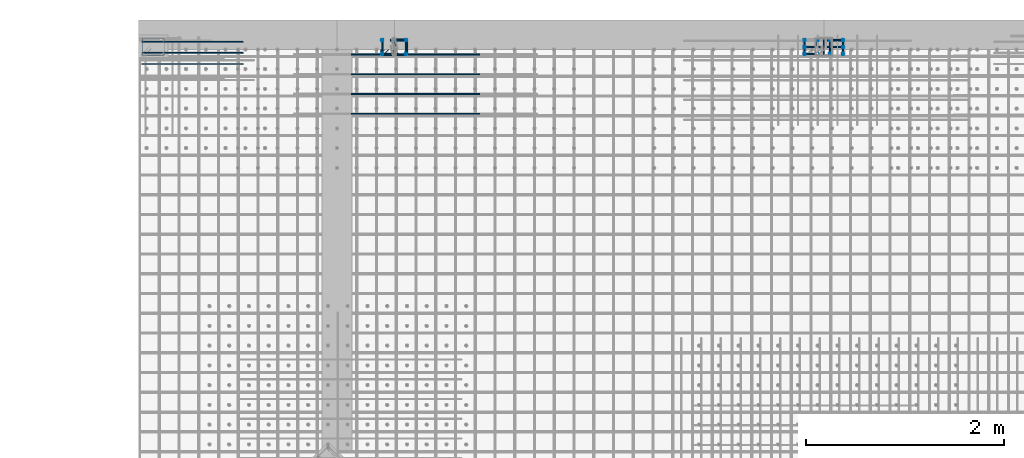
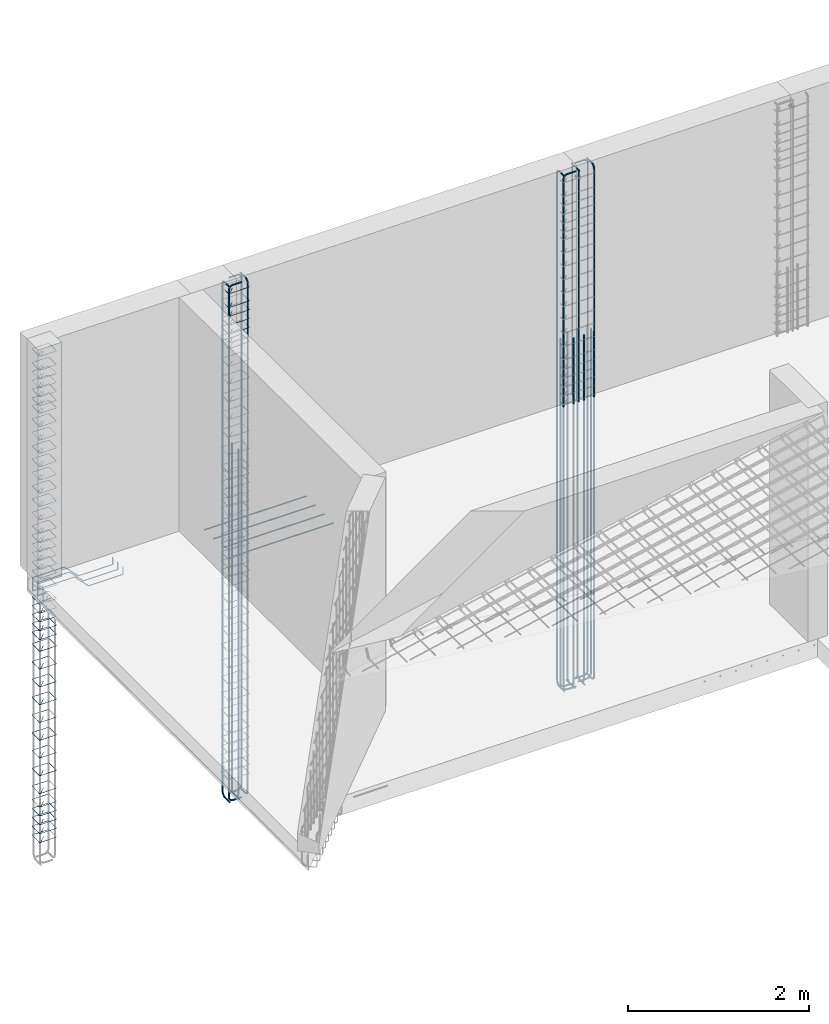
# One storey, part 12 of 17: 11 reinforcing bars.
"""IFC4 building model written with IfcOpenShell, lengths in metres."""

from ifc_helpers import new_model, entity, si_unit, frame, origin_with_axes, place, context, project, spatial, source, transform, mapped, element, save


model = new_model("IFC4")

# Units and contexts
model_context = context("Model", 3, precision=1e-05, world=origin_with_axes())
ifc_project = project(units=[si_unit("LENGTHUNIT", "METRE"), si_unit("AREAUNIT", "SQUARE_METRE"), si_unit("VOLUMEUNIT", "CUBIC_METRE"), si_unit("MASSUNIT", "GRAM", prefix="KILO"), si_unit("TIMEUNIT", "SECOND"), si_unit("PLANEANGLEUNIT", "RADIAN"), si_unit("SOLIDANGLEUNIT", "STERADIAN"), si_unit("THERMODYNAMICTEMPERATUREUNIT", "DEGREE_CELSIUS")], contexts=[model_context])

# Site, building, storey
placement_1 = place(None, origin_with_axes())
site = spatial("IfcSite", under=ifc_project, at=placement_1, Name="Italia", CompositionType="ELEMENT")
building = spatial("IfcBuilding", under=site, at=placement_1, Name="Abitazione", CompositionType="ELEMENT")
storey_placement = place(None, frame((0.0, 0.0, 3.569999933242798), z_axis=(0.0, 0.0, 1.0), x_axis=(1.0, 0.0, 0.0)))
storey = spatial("IfcBuildingStorey", under=building, at=storey_placement, Name="Storey 1", CompositionType="ELEMENT", Elevation=3.569999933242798)

# Reinforcing bars
shared_shape_1 = source(origin_with_axes(), model_context, "Body", "AdvancedSweptSolid", [
    entity("IfcSweptDiskSolid", entity("IfcIndexedPolyCurve", entity("IfcCartesianPointList3D", [[1.32121, 11.2817, 0.041], [1.25343, 11.2139, 0.0402633], [1.24636, 11.211, 0.0402045], [1.241, 11.211, 0.0401633], [1.23717, 11.2118, 0.0401334], [1.23393, 11.2139, 0.0401034], [1.23176, 11.2172, 0.0400734], [1.231, 11.221, 0.0400434], [1.231, 11.369, 0.038906], [1.23176, 11.3728, 0.0388761], [1.23393, 11.3761, 0.0388461], [1.23717, 11.3782, 0.0388161], [1.241, 11.379, 0.0387861], [1.439, 11.379, 0.0372645], [1.44283, 11.3782, 0.0372345], [1.44607, 11.3761, 0.0372045], [1.44824, 11.3728, 0.0371745], [1.449, 11.369, 0.0371445], [1.449, 11.221, 0.0360072], [1.44824, 11.2172, 0.0359772], [1.44607, 11.2139, 0.0359472], [1.44283, 11.2118, 0.0359172], [1.439, 11.211, 0.0358872], [1.241, 11.211, 0.0343656], [1.23717, 11.2118, 0.0343356], [1.23393, 11.2139, 0.0343057], [1.23176, 11.2172, 0.0342757], [1.231, 11.221, 0.0342457], [1.231, 11.2264, 0.0342045], [1.23393, 11.2334, 0.0341457], [1.30171, 11.3012, 0.033409]]), [entity("IfcLineIndex", [1, 2]), entity("IfcLineIndex", [2, 3]), entity("IfcLineIndex", [3, 4]), entity("IfcLineIndex", [4, 5]), entity("IfcLineIndex", [5, 6]), entity("IfcLineIndex", [6, 7]), entity("IfcLineIndex", [7, 8]), entity("IfcLineIndex", [8, 9]), entity("IfcLineIndex", [9, 10]), entity("IfcLineIndex", [10, 11]), entity("IfcLineIndex", [11, 12]), entity("IfcLineIndex", [12, 13]), entity("IfcLineIndex", [13, 14]), entity("IfcLineIndex", [14, 15]), entity("IfcLineIndex", [15, 16]), entity("IfcLineIndex", [16, 17]), entity("IfcLineIndex", [17, 18]), entity("IfcLineIndex", [18, 19]), entity("IfcLineIndex", [19, 20]), entity("IfcLineIndex", [20, 21]), entity("IfcLineIndex", [21, 22]), entity("IfcLineIndex", [22, 23]), entity("IfcLineIndex", [23, 24]), entity("IfcLineIndex", [24, 25]), entity("IfcLineIndex", [25, 26]), entity("IfcLineIndex", [26, 27]), entity("IfcLineIndex", [27, 28]), entity("IfcLineIndex", [28, 29]), entity("IfcLineIndex", [29, 30]), entity("IfcLineIndex", [30, 31])], False), 0.003),
])
placement_2 = place(placement_1, origin_with_axes())
reinforcing_bar_1_placement = place(placement_2, origin_with_axes())
element("IfcReinforcingBar", 1, at=reinforcing_bar_1_placement, inside=storey, BarLength=0.987804, CrossSectionArea=2.8274e-05, NominalDiameter=0.006, context=model_context, shape_type="MappedRepresentation", body=[
    mapped(shared_shape_1, transform((0.0, 0.0, 6.56786), x_axis=(1.0, 0.0, 7.91257e-05), y_axis=(0.0, 1.0, -8.54465e-05), z_axis=(-7.91256e-05, 8.54466e-05, 1.0), scale=1.0)),
    mapped(shared_shape_1, transform((0.0, 0.0, 4.35786), x_axis=(1.0, 0.0, 7.91257e-05), y_axis=(0.0, 1.0, -8.54465e-05), z_axis=(-7.91256e-05, 8.54466e-05, 1.0), scale=1.0)),
    mapped(shared_shape_1, transform((0.0, 0.0, 4.53786), x_axis=(1.0, 0.0, 7.91257e-05), y_axis=(0.0, 1.0, -8.54465e-05), z_axis=(-7.91256e-05, 8.54466e-05, 1.0), scale=1.0)),
    mapped(shared_shape_1, transform((0.0, 0.0, 4.71786), x_axis=(1.0, 0.0, 7.91257e-05), y_axis=(0.0, 1.0, -8.54465e-05), z_axis=(-7.91256e-05, 8.54466e-05, 1.0), scale=1.0)),
    mapped(shared_shape_1, transform((0.0, 0.0, 4.89786), x_axis=(1.0, 0.0, 7.91257e-05), y_axis=(0.0, 1.0, -8.54465e-05), z_axis=(-7.91256e-05, 8.54466e-05, 1.0), scale=1.0)),
    mapped(shared_shape_1, transform((0.0, 0.0, 4.17786), x_axis=(1.0, 0.0, 7.91257e-05), y_axis=(0.0, 1.0, -8.54465e-05), z_axis=(-7.91256e-05, 8.54466e-05, 1.0), scale=1.0)),
    mapped(shared_shape_1, transform((0.0, 0.0, 3.69016), x_axis=(1.0, 0.0, 1.66127e-05), y_axis=(0.0, 1.0, -1.59008e-05), z_axis=(-1.66127e-05, 1.59008e-05, 1.0), scale=1.0)),
    mapped(shared_shape_1, transform((0.0, 0.0, 3.81016), x_axis=(1.0, 0.0, 1.66127e-05), y_axis=(0.0, 1.0, -1.59008e-05), z_axis=(-1.66127e-05, 1.59008e-05, 1.0), scale=1.0)),
    mapped(shared_shape_1, transform((0.0, 0.0, 3.93016), x_axis=(1.0, 0.0, 1.66127e-05), y_axis=(0.0, 1.0, -1.59008e-05), z_axis=(-1.66127e-05, 1.59008e-05, 1.0), scale=1.0)),
    mapped(shared_shape_1, transform((0.0, 0.0, 4.05086), x_axis=(1.0, 0.0, 7.91257e-05), y_axis=(0.0, 1.0, -8.54465e-05), z_axis=(-7.91256e-05, 8.54466e-05, 1.0), scale=1.0)),
    mapped(shared_shape_1, transform((0.0, 0.0, 5.07786), x_axis=(1.0, 0.0, 7.91257e-05), y_axis=(0.0, 1.0, -8.54465e-05), z_axis=(-7.91256e-05, 8.54466e-05, 1.0), scale=1.0)),
    mapped(shared_shape_1, transform((0.0, 0.0, 6.02086), x_axis=(1.0, 0.0, 7.91257e-05), y_axis=(0.0, 1.0, -8.54465e-05), z_axis=(-7.91256e-05, 8.54466e-05, 1.0), scale=1.0)),
    mapped(shared_shape_1, transform((0.0, 0.0, 6.14086), x_axis=(1.0, 0.0, 7.91257e-05), y_axis=(0.0, 1.0, -8.54465e-05), z_axis=(-7.91256e-05, 8.54466e-05, 1.0), scale=1.0)),
    mapped(shared_shape_1, transform((0.0, 0.0, 6.26086), x_axis=(1.0, 0.0, 7.91257e-05), y_axis=(0.0, 1.0, -8.54465e-05), z_axis=(-7.91256e-05, 8.54466e-05, 1.0), scale=1.0)),
    mapped(shared_shape_1, transform((0.0, 0.0, 6.38086), x_axis=(1.0, 0.0, 7.91257e-05), y_axis=(0.0, 1.0, -8.54465e-05), z_axis=(-7.91256e-05, 8.54466e-05, 1.0), scale=1.0)),
    mapped(shared_shape_1, transform((0.0, 0.0, 5.90086), x_axis=(1.0, 0.0, 7.91257e-05), y_axis=(0.0, 1.0, -8.54465e-05), z_axis=(-7.91256e-05, 8.54466e-05, 1.0), scale=1.0)),
    mapped(shared_shape_1, transform((0.0, 0.0, 5.25786), x_axis=(1.0, 0.0, 7.91257e-05), y_axis=(0.0, 1.0, -8.54465e-05), z_axis=(-7.91256e-05, 8.54466e-05, 1.0), scale=1.0)),
    mapped(shared_shape_1, transform((0.0, 0.0, 5.43786), x_axis=(1.0, 0.0, 7.91257e-05), y_axis=(0.0, 1.0, -8.54465e-05), z_axis=(-7.91256e-05, 8.54466e-05, 1.0), scale=1.0)),
    mapped(shared_shape_1, transform((0.0, 0.0, 5.61786), x_axis=(1.0, 0.0, 7.91257e-05), y_axis=(0.0, 1.0, -8.54465e-05), z_axis=(-7.91256e-05, 8.54466e-05, 1.0), scale=1.0)),
    mapped(shared_shape_1, transform((0.0, 0.0, 5.79786), x_axis=(1.0, 0.0, 7.91257e-05), y_axis=(0.0, 1.0, -8.54465e-05), z_axis=(-7.91256e-05, 8.54466e-05, 1.0), scale=1.0)),
    mapped(shared_shape_1, transform((0.0, 0.0, 3.57016), x_axis=(1.0, 0.0, 1.66127e-05), y_axis=(0.0, 1.0, -1.59008e-05), z_axis=(-1.66127e-05, 1.59008e-05, 1.0), scale=1.0)),
    mapped(shared_shape_1, transform((0.0, 0.0, 2.86016), x_axis=(1.0, 0.0, 1.66127e-05), y_axis=(0.0, 1.0, -1.59008e-05), z_axis=(-1.66127e-05, 1.59008e-05, 1.0), scale=1.0)),
    mapped(shared_shape_1, transform((0.0, 0.0, 0.120026), x_axis=(1.0, 0.0, 0.0), y_axis=(0.0, 1.0, 0.0), z_axis=(0.0, 0.0, 1.0), scale=1.0)),
    mapped(shared_shape_1, transform((0.0, 0.0, 0.24003), x_axis=(1.0, 0.0, 0.0), y_axis=(0.0, 1.0, 0.0), z_axis=(0.0, 0.0, 1.0), scale=1.0)),
    mapped(shared_shape_1, transform((0.0, 0.0, 0.36003), x_axis=(1.0, 0.0, 0.0), y_axis=(0.0, 1.0, 0.0), z_axis=(0.0, 0.0, 1.0), scale=1.0)),
    mapped(shared_shape_1, transform((0.0, 0.0, 2.98016), x_axis=(1.0, 0.0, 1.66127e-05), y_axis=(0.0, 1.0, -1.59008e-05), z_axis=(-1.66127e-05, 1.59008e-05, 1.0), scale=1.0)),
    mapped(shared_shape_1, transform((0.0, 0.0, 0.0), x_axis=(1.0, 0.0, 0.0), y_axis=(0.0, 1.0, 0.0), z_axis=(0.0, 0.0, 1.0), scale=1.0)),
    mapped(shared_shape_1, transform((0.0, 0.0, 0.901871), x_axis=(1.0, 0.0, -1.21837e-05), y_axis=(0.0, 1.0, 1.28963e-05), z_axis=(1.21837e-05, -1.28963e-05, 1.0), scale=1.0)),
    mapped(shared_shape_1, transform((0.0, 0.0, 1.14187), x_axis=(1.0, 0.0, -1.21837e-05), y_axis=(0.0, 1.0, 1.28963e-05), z_axis=(1.21837e-05, -1.28963e-05, 1.0), scale=1.0)),
    mapped(shared_shape_1, transform((0.0, 0.0, 1.38187), x_axis=(1.0, 0.0, -1.21837e-05), y_axis=(0.0, 1.0, 1.28963e-05), z_axis=(1.21837e-05, -1.28963e-05, 1.0), scale=1.0)),
    mapped(shared_shape_1, transform((0.0, 0.0, 1.62187), x_axis=(1.0, 0.0, -1.21837e-05), y_axis=(0.0, 1.0, 1.28963e-05), z_axis=(1.21837e-05, -1.28963e-05, 1.0), scale=1.0)),
    mapped(shared_shape_1, transform((0.0, 0.0, 0.479871), x_axis=(1.0, 0.0, -1.21837e-05), y_axis=(0.0, 1.0, 1.28963e-05), z_axis=(1.21837e-05, -1.28963e-05, 1.0), scale=1.0)),
    mapped(shared_shape_1, transform((0.0, 0.0, 1.86187), x_axis=(1.0, 0.0, -1.21837e-05), y_axis=(0.0, 1.0, 1.28963e-05), z_axis=(1.21837e-05, -1.28963e-05, 1.0), scale=1.0)),
    mapped(shared_shape_1, transform((0.0, 0.0, 3.22016), x_axis=(1.0, 0.0, 1.66127e-05), y_axis=(0.0, 1.0, -1.59008e-05), z_axis=(-1.66127e-05, 1.59008e-05, 1.0), scale=1.0)),
    mapped(shared_shape_1, transform((0.0, 0.0, 3.10016), x_axis=(1.0, 0.0, 1.66127e-05), y_axis=(0.0, 1.0, -1.59008e-05), z_axis=(-1.66127e-05, 1.59008e-05, 1.0), scale=1.0)),
    mapped(shared_shape_1, transform((0.0, 0.0, 0.661871), x_axis=(1.0, 0.0, -1.21837e-05), y_axis=(0.0, 1.0, 1.28963e-05), z_axis=(1.21837e-05, -1.28963e-05, 1.0), scale=1.0)),
    mapped(shared_shape_1, transform((0.0, 0.0, 3.40716), x_axis=(1.0, 0.0, 1.66127e-05), y_axis=(0.0, 1.0, -1.59008e-05), z_axis=(-1.66127e-05, 1.59008e-05, 1.0), scale=1.0)),
    mapped(shared_shape_1, transform((0.0, 0.0, 2.34216), x_axis=(1.0, 0.0, 1.66127e-05), y_axis=(0.0, 1.0, -1.59008e-05), z_axis=(-1.66127e-05, 1.59008e-05, 1.0), scale=1.0)),
    mapped(shared_shape_1, transform((0.0, 0.0, 2.10216), x_axis=(1.0, 0.0, 1.66127e-05), y_axis=(0.0, 1.0, -1.59008e-05), z_axis=(-1.66127e-05, 1.59008e-05, 1.0), scale=1.0)),
    mapped(shared_shape_1, transform((0.0, 0.0, 2.74016), x_axis=(1.0, 0.0, 1.66127e-05), y_axis=(0.0, 1.0, -1.59008e-05), z_axis=(-1.66127e-05, 1.59008e-05, 1.0), scale=1.0)),
    mapped(shared_shape_1, transform((0.0, 0.0, 2.58216), x_axis=(1.0, 0.0, 1.66127e-05), y_axis=(0.0, 1.0, -1.59008e-05), z_axis=(-1.66127e-05, 1.59008e-05, 1.0), scale=1.0)),
])
shared_shape_2 = source(origin_with_axes(), model_context, "Body", "AdvancedSweptSolid", [
    entity("IfcSweptDiskSolid", entity("IfcIndexedPolyCurve", entity("IfcCartesianPointList3D", [[3.822, 11.225, -0.265], [3.715, 11.225, -0.265], [3.69395, 11.225, -0.260813], [3.67611, 11.225, -0.248891], [3.66419, 11.225, -0.231048], [3.66, 11.225, -0.21], [3.66, 11.225, 0.8975]]), [entity("IfcLineIndex", [1, 2]), entity("IfcLineIndex", [2, 3]), entity("IfcLineIndex", [3, 4]), entity("IfcLineIndex", [4, 5]), entity("IfcLineIndex", [5, 6]), entity("IfcLineIndex", [6, 7])], False), 0.011),
])
reinforcing_bar_2_placement = place(placement_2, origin_with_axes())
element("IfcReinforcingBar", 2, at=reinforcing_bar_2_placement, inside=storey, BarLength=1.30034, CrossSectionArea=0.00038013, NominalDiameter=0.022, context=model_context, shape_type="MappedRepresentation", body=[
    mapped(shared_shape_2, transform((7.56, 22.59, 0.0), x_axis=(-1.0, 0.0, 0.0), y_axis=(0.0, -1.0, 0.0), z_axis=(0.0, 0.0, 1.0), scale=1.0)),
    mapped(shared_shape_2, transform((-7.565, 15.025, 0.0), x_axis=(0.0, -1.0, 0.0), y_axis=(1.0, 0.0, 0.0), z_axis=(0.0, 0.0, 1.0), scale=1.0)),
    mapped(shared_shape_2, transform((0.0, 0.0, 0.0), x_axis=(1.0, 0.0, 0.0), y_axis=(0.0, 1.0, 0.0), z_axis=(0.0, 0.0, 1.0), scale=1.0)),
    mapped(shared_shape_2, transform((15.005, 7.565, 0.0), x_axis=(0.0, 1.0, 0.0), y_axis=(-1.0, 0.0, 0.0), z_axis=(0.0, 0.0, 1.0), scale=1.0)),
    mapped(shared_shape_2, transform((-7.445, 15.025, 0.0), x_axis=(0.0, -1.0, 0.0), y_axis=(1.0, 0.0, 0.0), z_axis=(0.0, 0.0, 1.0), scale=1.0)),
    mapped(shared_shape_2, transform((15.125, 7.565, 0.0), x_axis=(0.0, 1.0, 0.0), y_axis=(-1.0, 0.0, 0.0), z_axis=(0.0, 0.0, 1.0), scale=1.0)),
])
shared_shape_3 = source(origin_with_axes(), model_context, "Body", "AdvancedSweptSolid", [
    entity("IfcSweptDiskSolid", entity("IfcIndexedPolyCurve", entity("IfcCartesianPointList3D", [[3.66, 11.225, 0.0], [3.66, 11.225, 4.45]]), [entity("IfcLineIndex", [1, 2])], False), 0.011),
])
reinforcing_bar_3_placement = place(placement_2, origin_with_axes())
element("IfcReinforcingBar", 3, at=reinforcing_bar_3_placement, inside=storey, BarLength=4.45, CrossSectionArea=0.00038013, NominalDiameter=0.022, context=model_context, shape_type="MappedRepresentation", body=[
    mapped(shared_shape_3, transform((0.24, 0.139999, 0.0), x_axis=(1.0, 0.0, 0.0), y_axis=(0.0, 1.0, 0.0), z_axis=(0.0, 0.0, 1.0), scale=1.0)),
    mapped(shared_shape_3, transform((0.0, 0.139999, 0.0), x_axis=(1.0, 0.0, 0.0), y_axis=(0.0, 1.0, 0.0), z_axis=(0.0, 0.0, 1.0), scale=1.0)),
    mapped(shared_shape_3, transform((0.0, 0.0, 0.0), x_axis=(1.0, 0.0, 0.0), y_axis=(0.0, 1.0, 0.0), z_axis=(0.0, 0.0, 1.0), scale=1.0)),
    mapped(shared_shape_3, transform((0.12, 0.0, 0.0), x_axis=(1.0, 0.0, 0.0), y_axis=(0.0, 1.0, 0.0), z_axis=(0.0, 0.0, 1.0), scale=1.0)),
    mapped(shared_shape_3, transform((0.12, 0.139999, 0.0), x_axis=(1.0, 0.0, 0.0), y_axis=(0.0, 1.0, 0.0), z_axis=(0.0, 0.0, 1.0), scale=1.0)),
    mapped(shared_shape_3, transform((0.24, 0.0, 0.0), x_axis=(1.0, 0.0, 0.0), y_axis=(0.0, 1.0, 0.0), z_axis=(0.0, 0.0, 1.0), scale=1.0)),
])
shared_shape_4 = source(origin_with_axes(), model_context, "Body", "AdvancedSweptSolid", [
    entity("IfcSweptDiskSolid", entity("IfcIndexedPolyCurve", entity("IfcCartesianPointList3D", [[3.659, 11.224, 3.57], [3.659, 11.224, 6.645], [3.66281, 11.224, 6.66413], [3.67364, 11.224, 6.68036], [3.68987, 11.224, 6.69119], [3.709, 11.224, 6.695], [3.821, 11.224, 6.695]]), [entity("IfcLineIndex", [1, 2]), entity("IfcLineIndex", [2, 3]), entity("IfcLineIndex", [3, 4]), entity("IfcLineIndex", [4, 5]), entity("IfcLineIndex", [5, 6]), entity("IfcLineIndex", [6, 7])], False), 0.01),
])
reinforcing_bar_4_placement = place(placement_2, origin_with_axes())
element("IfcReinforcingBar", 4, at=reinforcing_bar_4_placement, inside=storey, BarLength=3.26504, CrossSectionArea=0.00031416, NominalDiameter=0.02, context=model_context, shape_type="MappedRepresentation", body=[
    mapped(shared_shape_4, transform((-7.565, 15.025, 0.0), x_axis=(0.0, -1.0, 0.0), y_axis=(1.0, 0.0, 0.0), z_axis=(0.0, 0.0, 1.0), scale=1.0)),
    mapped(shared_shape_4, transform((0.0, 0.0, 0.0), x_axis=(1.0, 0.0, 0.0), y_axis=(0.0, 1.0, 0.0), z_axis=(0.0, 0.0, 1.0), scale=1.0)),
    mapped(shared_shape_4, transform((15.125, 7.565, 0.0), x_axis=(0.0, 1.0, 0.0), y_axis=(-1.0, 0.0, 0.0), z_axis=(0.0, 0.0, 1.0), scale=1.0)),
    mapped(shared_shape_4, transform((7.56, 22.59, 0.0), x_axis=(-1.0, 0.0, 0.0), y_axis=(0.0, -1.0, 0.0), z_axis=(0.0, 0.0, 1.0), scale=1.0)),
])
shared_shape_5 = source(origin_with_axes(), model_context, "Body", "AdvancedSweptSolid", [
    entity("IfcSweptDiskSolid", entity("IfcIndexedPolyCurve", entity("IfcCartesianPointList3D", [[3.73621, 11.2817, 0.041], [3.66843, 11.2139, 0.040347], [3.66136, 11.211, 0.0402948], [3.656, 11.211, 0.0402583], [3.65217, 11.2118, 0.0402318], [3.64893, 11.2139, 0.0402052], [3.64676, 11.2172, 0.0401786], [3.646, 11.221, 0.040152], [3.646, 11.369, 0.0391438], [3.64676, 11.3728, 0.0391172], [3.64893, 11.3761, 0.0390906], [3.65217, 11.3782, 0.039064], [3.656, 11.379, 0.0390375], [3.904, 11.379, 0.037348], [3.90783, 11.3782, 0.0373214], [3.91107, 11.3761, 0.0372948], [3.91324, 11.3728, 0.0372683], [3.914, 11.369, 0.0372417], [3.914, 11.221, 0.0362334], [3.91324, 11.2172, 0.0362069], [3.91107, 11.2139, 0.0361803], [3.90783, 11.2118, 0.0361537], [3.904, 11.211, 0.0361271], [3.656, 11.211, 0.0344377], [3.65217, 11.2118, 0.0344111], [3.64893, 11.2139, 0.0343845], [3.64676, 11.2172, 0.0343579], [3.646, 11.221, 0.0343313], [3.646, 11.2264, 0.0342948], [3.64893, 11.2334, 0.0342427], [3.71671, 11.3012, 0.0335897]]), [entity("IfcLineIndex", [1, 2]), entity("IfcLineIndex", [2, 3]), entity("IfcLineIndex", [3, 4]), entity("IfcLineIndex", [4, 5]), entity("IfcLineIndex", [5, 6]), entity("IfcLineIndex", [6, 7]), entity("IfcLineIndex", [7, 8]), entity("IfcLineIndex", [8, 9]), entity("IfcLineIndex", [9, 10]), entity("IfcLineIndex", [10, 11]), entity("IfcLineIndex", [11, 12]), entity("IfcLineIndex", [12, 13]), entity("IfcLineIndex", [13, 14]), entity("IfcLineIndex", [14, 15]), entity("IfcLineIndex", [15, 16]), entity("IfcLineIndex", [16, 17]), entity("IfcLineIndex", [17, 18]), entity("IfcLineIndex", [18, 19]), entity("IfcLineIndex", [19, 20]), entity("IfcLineIndex", [20, 21]), entity("IfcLineIndex", [21, 22]), entity("IfcLineIndex", [22, 23]), entity("IfcLineIndex", [23, 24]), entity("IfcLineIndex", [24, 25]), entity("IfcLineIndex", [25, 26]), entity("IfcLineIndex", [26, 27]), entity("IfcLineIndex", [27, 28]), entity("IfcLineIndex", [28, 29]), entity("IfcLineIndex", [29, 30]), entity("IfcLineIndex", [30, 31])], False), 0.003),
])
reinforcing_bar_5_placement = place(placement_2, origin_with_axes())
element("IfcReinforcingBar", 5, at=reinforcing_bar_5_placement, inside=storey, BarLength=1.0878, CrossSectionArea=2.8274e-05, NominalDiameter=0.006, context=model_context, shape_type="MappedRepresentation", body=[
    mapped(shared_shape_5, transform((0.0, 0.0, 4.14676), x_axis=(1.0, 0.0, -3.71002e-05), y_axis=(0.0, 1.0, 3.36365e-05), z_axis=(3.71002e-05, -3.36364e-05, 1.0), scale=1.0)),
    mapped(shared_shape_5, transform((0.0, 0.0, 4.04976), x_axis=(1.0, 0.0, -3.71002e-05), y_axis=(0.0, 1.0, 3.36365e-05), z_axis=(3.71002e-05, -3.36364e-05, 1.0), scale=1.0)),
    mapped(shared_shape_5, transform((0.0, 0.0, 4.62676), x_axis=(1.0, 0.0, -3.71002e-05), y_axis=(0.0, 1.0, 3.36365e-05), z_axis=(3.71002e-05, -3.36364e-05, 1.0), scale=1.0)),
    mapped(shared_shape_5, transform((0.0, 0.0, 4.38676), x_axis=(1.0, 0.0, -3.71002e-05), y_axis=(0.0, 1.0, 3.36365e-05), z_axis=(3.71002e-05, -3.36364e-05, 1.0), scale=1.0)),
    mapped(shared_shape_5, transform((0.0, 0.0, 3.40713), x_axis=(1.0, 0.0, 1.79523e-05), y_axis=(0.0, 1.0, -1.78985e-05), z_axis=(-1.79523e-05, 1.78985e-05, 1.0), scale=1.0)),
    mapped(shared_shape_5, transform((0.0, 0.0, 4.86676), x_axis=(1.0, 0.0, -3.71002e-05), y_axis=(0.0, 1.0, 3.36365e-05), z_axis=(3.71002e-05, -3.36364e-05, 1.0), scale=1.0)),
    mapped(shared_shape_5, transform((0.0, 0.0, 3.69014), x_axis=(1.0, 0.0, 1.79523e-05), y_axis=(0.0, 1.0, -1.78985e-05), z_axis=(-1.79523e-05, 1.78985e-05, 1.0), scale=1.0)),
    mapped(shared_shape_5, transform((0.0, 0.0, 3.57013), x_axis=(1.0, 0.0, 1.79523e-05), y_axis=(0.0, 1.0, -1.78985e-05), z_axis=(-1.79523e-05, 1.78985e-05, 1.0), scale=1.0)),
    mapped(shared_shape_5, transform((0.0, 0.0, 3.93014), x_axis=(1.0, 0.0, 1.79523e-05), y_axis=(0.0, 1.0, -1.78985e-05), z_axis=(-1.79523e-05, 1.78985e-05, 1.0), scale=1.0)),
    mapped(shared_shape_5, transform((0.0, 0.0, 3.81013), x_axis=(1.0, 0.0, 1.79523e-05), y_axis=(0.0, 1.0, -1.78985e-05), z_axis=(-1.79523e-05, 1.78985e-05, 1.0), scale=1.0)),
    mapped(shared_shape_5, transform((0.0, 0.0, 6.13976), x_axis=(1.0, 0.0, -3.71002e-05), y_axis=(0.0, 1.0, 3.36365e-05), z_axis=(3.71002e-05, -3.36364e-05, 1.0), scale=1.0)),
    mapped(shared_shape_5, transform((0.0, 0.0, 6.01976), x_axis=(1.0, 0.0, -3.71002e-05), y_axis=(0.0, 1.0, 3.36365e-05), z_axis=(3.71002e-05, -3.36364e-05, 1.0), scale=1.0)),
    mapped(shared_shape_5, transform((0.0, 0.0, 6.37976), x_axis=(1.0, 0.0, -3.71002e-05), y_axis=(0.0, 1.0, 3.36365e-05), z_axis=(3.71002e-05, -3.36364e-05, 1.0), scale=1.0)),
    mapped(shared_shape_5, transform((0.0, 0.0, 6.25976), x_axis=(1.0, 0.0, -3.71002e-05), y_axis=(0.0, 1.0, 3.36365e-05), z_axis=(3.71002e-05, -3.36364e-05, 1.0), scale=1.0)),
    mapped(shared_shape_5, transform((0.0, 0.0, 5.10676), x_axis=(1.0, 0.0, -3.71002e-05), y_axis=(0.0, 1.0, 3.36365e-05), z_axis=(3.71002e-05, -3.36364e-05, 1.0), scale=1.0)),
    mapped(shared_shape_5, transform((0.0, 0.0, 6.56676), x_axis=(1.0, 0.0, -3.71002e-05), y_axis=(0.0, 1.0, 3.36365e-05), z_axis=(3.71002e-05, -3.36364e-05, 1.0), scale=1.0)),
    mapped(shared_shape_5, transform((0.0, 0.0, 5.58676), x_axis=(1.0, 0.0, -3.71002e-05), y_axis=(0.0, 1.0, 3.36365e-05), z_axis=(3.71002e-05, -3.36364e-05, 1.0), scale=1.0)),
    mapped(shared_shape_5, transform((0.0, 0.0, 5.34676), x_axis=(1.0, 0.0, -3.71002e-05), y_axis=(0.0, 1.0, 3.36365e-05), z_axis=(3.71002e-05, -3.36364e-05, 1.0), scale=1.0)),
    mapped(shared_shape_5, transform((0.0, 0.0, 5.89976), x_axis=(1.0, 0.0, -3.71002e-05), y_axis=(0.0, 1.0, 3.36365e-05), z_axis=(3.71002e-05, -3.36364e-05, 1.0), scale=1.0)),
    mapped(shared_shape_5, transform((0.0, 0.0, 5.82676), x_axis=(1.0, 0.0, -3.71002e-05), y_axis=(0.0, 1.0, 3.36365e-05), z_axis=(3.71002e-05, -3.36364e-05, 1.0), scale=1.0)),
    mapped(shared_shape_5, transform((0.0, 0.0, 0.852026), x_axis=(1.0, 0.0, 0.0), y_axis=(0.0, 1.0, 0.0), z_axis=(0.0, 0.0, 1.0), scale=1.0)),
    mapped(shared_shape_5, transform((0.0, 0.0, 0.632026), x_axis=(1.0, 0.0, 0.0), y_axis=(0.0, 1.0, 0.0), z_axis=(0.0, 0.0, 1.0), scale=1.0)),
    mapped(shared_shape_5, transform((0.0, 0.0, 1.29213), x_axis=(1.0, 0.0, 1.79523e-05), y_axis=(0.0, 1.0, -1.78985e-05), z_axis=(-1.79523e-05, 1.78985e-05, 1.0), scale=1.0)),
    mapped(shared_shape_5, transform((0.0, 0.0, 1.07213), x_axis=(1.0, 0.0, 1.79523e-05), y_axis=(0.0, 1.0, -1.78985e-05), z_axis=(-1.79523e-05, 1.78985e-05, 1.0), scale=1.0)),
    mapped(shared_shape_5, transform((0.0, 0.0, 0.0), x_axis=(1.0, 0.0, 0.0), y_axis=(0.0, 1.0, 0.0), z_axis=(0.0, 0.0, 1.0), scale=1.0)),
    mapped(shared_shape_5, transform((0.0, 0.0, 1.51213), x_axis=(1.0, 0.0, 1.79523e-05), y_axis=(0.0, 1.0, -1.78985e-05), z_axis=(-1.79523e-05, 1.78985e-05, 1.0), scale=1.0)),
    mapped(shared_shape_5, transform((0.0, 0.0, 0.239972), x_axis=(1.0, 0.0, 0.0), y_axis=(0.0, 1.0, 0.0), z_axis=(0.0, 0.0, 1.0), scale=1.0)),
    mapped(shared_shape_5, transform((0.0, 0.0, 0.119999), x_axis=(1.0, 0.0, 0.0), y_axis=(0.0, 1.0, 0.0), z_axis=(0.0, 0.0, 1.0), scale=1.0)),
    mapped(shared_shape_5, transform((0.0, 0.0, 0.480026), x_axis=(1.0, 0.0, 0.0), y_axis=(0.0, 1.0, 0.0), z_axis=(0.0, 0.0, 1.0), scale=1.0)),
    mapped(shared_shape_5, transform((0.0, 0.0, 0.359972), x_axis=(1.0, 0.0, 0.0), y_axis=(0.0, 1.0, 0.0), z_axis=(0.0, 0.0, 1.0), scale=1.0)),
    mapped(shared_shape_5, transform((0.0, 0.0, 2.86013), x_axis=(1.0, 0.0, 1.79523e-05), y_axis=(0.0, 1.0, -1.78985e-05), z_axis=(-1.79523e-05, 1.78985e-05, 1.0), scale=1.0)),
    mapped(shared_shape_5, transform((0.0, 0.0, 2.74013), x_axis=(1.0, 0.0, 1.79523e-05), y_axis=(0.0, 1.0, -1.78985e-05), z_axis=(-1.79523e-05, 1.78985e-05, 1.0), scale=1.0)),
    mapped(shared_shape_5, transform((0.0, 0.0, 3.10013), x_axis=(1.0, 0.0, 1.79523e-05), y_axis=(0.0, 1.0, -1.78985e-05), z_axis=(-1.79523e-05, 1.78985e-05, 1.0), scale=1.0)),
    mapped(shared_shape_5, transform((0.0, 0.0, 2.98013), x_axis=(1.0, 0.0, 1.79523e-05), y_axis=(0.0, 1.0, -1.78985e-05), z_axis=(-1.79523e-05, 1.78985e-05, 1.0), scale=1.0)),
    mapped(shared_shape_5, transform((0.0, 0.0, 1.73213), x_axis=(1.0, 0.0, 1.79523e-05), y_axis=(0.0, 1.0, -1.78985e-05), z_axis=(-1.79523e-05, 1.78985e-05, 1.0), scale=1.0)),
    mapped(shared_shape_5, transform((0.0, 0.0, 3.22013), x_axis=(1.0, 0.0, 1.79523e-05), y_axis=(0.0, 1.0, -1.78985e-05), z_axis=(-1.79523e-05, 1.78985e-05, 1.0), scale=1.0)),
    mapped(shared_shape_5, transform((0.0, 0.0, 2.17213), x_axis=(1.0, 0.0, 1.79523e-05), y_axis=(0.0, 1.0, -1.78985e-05), z_axis=(-1.79523e-05, 1.78985e-05, 1.0), scale=1.0)),
    mapped(shared_shape_5, transform((0.0, 0.0, 1.95213), x_axis=(1.0, 0.0, 1.79523e-05), y_axis=(0.0, 1.0, -1.78985e-05), z_axis=(-1.79523e-05, 1.78985e-05, 1.0), scale=1.0)),
    mapped(shared_shape_5, transform((0.0, 0.0, 2.61213), x_axis=(1.0, 0.0, 1.79523e-05), y_axis=(0.0, 1.0, -1.78985e-05), z_axis=(-1.79523e-05, 1.78985e-05, 1.0), scale=1.0)),
    mapped(shared_shape_5, transform((0.0, 0.0, 2.39213), x_axis=(1.0, 0.0, 1.79523e-05), y_axis=(0.0, 1.0, -1.78985e-05), z_axis=(-1.79523e-05, 1.78985e-05, 1.0), scale=1.0)),
])
shared_shape_6 = source(origin_with_axes(), model_context, "Body", "AdvancedSweptSolid", [
    entity("IfcSweptDiskSolid", entity("IfcIndexedPolyCurve", entity("IfcCartesianPointList3D", [[8.097, 11.225, -0.265], [7.99, 11.225, -0.265], [7.96895, 11.225, -0.260813], [7.95111, 11.225, -0.248891], [7.93919, 11.225, -0.231048], [7.935, 11.225, -0.21], [7.935, 11.225, 0.8975]]), [entity("IfcLineIndex", [1, 2]), entity("IfcLineIndex", [2, 3]), entity("IfcLineIndex", [3, 4]), entity("IfcLineIndex", [4, 5]), entity("IfcLineIndex", [5, 6]), entity("IfcLineIndex", [6, 7])], False), 0.011),
])
reinforcing_bar_6_placement = place(placement_2, origin_with_axes())
element("IfcReinforcingBar", 6, at=reinforcing_bar_6_placement, inside=storey, BarLength=1.30034, CrossSectionArea=0.00038013, NominalDiameter=0.022, context=model_context, shape_type="MappedRepresentation", body=[
    mapped(shared_shape_6, transform((-3.03, 19.3, 0.0), x_axis=(0.0, -1.0, 0.0), y_axis=(1.0, 0.0, 0.0), z_axis=(0.0, 0.0, 1.0), scale=1.0)),
    mapped(shared_shape_6, transform((-3.16, 19.3, 0.0), x_axis=(0.0, -1.0, 0.0), y_axis=(1.0, 0.0, 0.0), z_axis=(0.0, 0.0, 1.0), scale=1.0)),
    mapped(shared_shape_6, transform((19.42, 3.29, 0.0), x_axis=(0.0, 1.0, 0.0), y_axis=(-1.0, 0.0, 0.0), z_axis=(0.0, 0.0, 1.0), scale=1.0)),
    mapped(shared_shape_6, transform((16.26, 22.52, 0.0), x_axis=(-1.0, 0.0, 0.0), y_axis=(0.0, -1.0, 0.0), z_axis=(0.0, 0.0, 1.0), scale=1.0)),
    mapped(shared_shape_6, transform((0.0, 0.0, 0.0), x_axis=(1.0, 0.0, 0.0), y_axis=(0.0, 1.0, 0.0), z_axis=(0.0, 0.0, 1.0), scale=1.0)),
    mapped(shared_shape_6, transform((19.29, 3.29, 0.0), x_axis=(0.0, 1.0, 0.0), y_axis=(-1.0, 0.0, 0.0), z_axis=(0.0, 0.0, 1.0), scale=1.0)),
    mapped(shared_shape_6, transform((16.26, 22.59, 0.0), x_axis=(-1.0, 0.0, 0.0), y_axis=(0.0, -1.0, 0.0), z_axis=(0.0, 0.0, 1.0), scale=1.0)),
    mapped(shared_shape_6, transform((-3.29, 19.3, 0.0), x_axis=(0.0, -1.0, 0.0), y_axis=(1.0, 0.0, 0.0), z_axis=(0.0, 0.0, 1.0), scale=1.0)),
    mapped(shared_shape_6, transform((0.0, 0.0699997, 0.0), x_axis=(1.0, 0.0, 0.0), y_axis=(0.0, 1.0, 0.0), z_axis=(0.0, 0.0, 1.0), scale=1.0)),
    mapped(shared_shape_6, transform((19.55, 3.29, 0.0), x_axis=(0.0, 1.0, 0.0), y_axis=(-1.0, 0.0, 0.0), z_axis=(0.0, 0.0, 1.0), scale=1.0)),
])
shared_shape_7 = source(origin_with_axes(), model_context, "Body", "AdvancedSweptSolid", [
    entity("IfcSweptDiskSolid", entity("IfcIndexedPolyCurve", entity("IfcCartesianPointList3D", [[7.935, 11.225, 0.0], [7.935, 11.225, 4.45]]), [entity("IfcLineIndex", [1, 2])], False), 0.011),
])
reinforcing_bar_7_placement = place(placement_2, origin_with_axes())
element("IfcReinforcingBar", 7, at=reinforcing_bar_7_placement, inside=storey, BarLength=4.45, CrossSectionArea=0.00038013, NominalDiameter=0.022, context=model_context, shape_type="MappedRepresentation", body=[
    mapped(shared_shape_7, transform((0.26, 0.139999, 0.0), x_axis=(1.0, 0.0, 0.0), y_axis=(0.0, 1.0, 0.0), z_axis=(0.0, 0.0, 1.0), scale=1.0)),
    mapped(shared_shape_7, transform((0.130001, 0.139999, 0.0), x_axis=(1.0, 0.0, 0.0), y_axis=(0.0, 1.0, 0.0), z_axis=(0.0, 0.0, 1.0), scale=1.0)),
    mapped(shared_shape_7, transform((0.26, 0.0, 0.0), x_axis=(1.0, 0.0, 0.0), y_axis=(0.0, 1.0, 0.0), z_axis=(0.0, 0.0, 1.0), scale=1.0)),
    mapped(shared_shape_7, transform((0.39, 0.0699949, 0.0), x_axis=(1.0, 0.0, 0.0), y_axis=(0.0, 1.0, 0.0), z_axis=(0.0, 0.0, 1.0), scale=1.0)),
    mapped(shared_shape_7, transform((0.0, 0.0, 0.0), x_axis=(1.0, 0.0, 0.0), y_axis=(0.0, 1.0, 0.0), z_axis=(0.0, 0.0, 1.0), scale=1.0)),
    mapped(shared_shape_7, transform((0.130001, 0.0, 0.0), x_axis=(1.0, 0.0, 0.0), y_axis=(0.0, 1.0, 0.0), z_axis=(0.0, 0.0, 1.0), scale=1.0)),
    mapped(shared_shape_7, transform((0.39, 0.139999, 0.0), x_axis=(1.0, 0.0, 0.0), y_axis=(0.0, 1.0, 0.0), z_axis=(0.0, 0.0, 1.0), scale=1.0)),
    mapped(shared_shape_7, transform((0.0, 0.139999, 0.0), x_axis=(1.0, 0.0, 0.0), y_axis=(0.0, 1.0, 0.0), z_axis=(0.0, 0.0, 1.0), scale=1.0)),
    mapped(shared_shape_7, transform((0.0, 0.0699997, 0.0), x_axis=(1.0, 0.0, 0.0), y_axis=(0.0, 1.0, 0.0), z_axis=(0.0, 0.0, 1.0), scale=1.0)),
    mapped(shared_shape_7, transform((0.39, 0.0, 0.0), x_axis=(1.0, 0.0, 0.0), y_axis=(0.0, 1.0, 0.0), z_axis=(0.0, 0.0, 1.0), scale=1.0)),
])
shared_shape_8 = source(origin_with_axes(), model_context, "Body", "AdvancedSweptSolid", [
    entity("IfcSweptDiskSolid", entity("IfcIndexedPolyCurve", entity("IfcCartesianPointList3D", [[7.934, 11.224, 3.57], [7.934, 11.224, 6.645], [7.93781, 11.224, 6.66413], [7.94864, 11.224, 6.68036], [7.96487, 11.224, 6.69119], [7.984, 11.224, 6.695], [8.096, 11.224, 6.695]]), [entity("IfcLineIndex", [1, 2]), entity("IfcLineIndex", [2, 3]), entity("IfcLineIndex", [3, 4]), entity("IfcLineIndex", [4, 5]), entity("IfcLineIndex", [5, 6]), entity("IfcLineIndex", [6, 7])], False), 0.01),
])
reinforcing_bar_8_placement = place(placement_2, origin_with_axes())
element("IfcReinforcingBar", 8, at=reinforcing_bar_8_placement, inside=storey, BarLength=3.26504, CrossSectionArea=0.00031416, NominalDiameter=0.02, context=model_context, shape_type="MappedRepresentation", body=[
    mapped(shared_shape_8, transform((-3.29, 19.3, 0.0), x_axis=(0.0, -1.0, 0.0), y_axis=(1.0, 0.0, 0.0), z_axis=(0.0, 0.0, 1.0), scale=1.0)),
    mapped(shared_shape_8, transform((0.0, 0.0, 0.0), x_axis=(1.0, 0.0, 0.0), y_axis=(0.0, 1.0, 0.0), z_axis=(0.0, 0.0, 1.0), scale=1.0)),
    mapped(shared_shape_8, transform((19.55, 3.29, 0.0), x_axis=(0.0, 1.0, 0.0), y_axis=(-1.0, 0.0, 0.0), z_axis=(0.0, 0.0, 1.0), scale=1.0)),
    mapped(shared_shape_8, transform((16.26, 22.59, 0.0), x_axis=(-1.0, 0.0, 0.0), y_axis=(0.0, -1.0, 0.0), z_axis=(0.0, 0.0, 1.0), scale=1.0)),
])
shared_shape_9 = source(origin_with_axes(), model_context, "Body", "AdvancedSweptSolid", [
    entity("IfcSweptDiskSolid", entity("IfcIndexedPolyCurve", entity("IfcCartesianPointList3D", [[8.13, 11.368, 3.57], [8.13, 11.368, 6.655], [8.13, 11.365, 6.67031], [8.13, 11.3563, 6.68328], [8.13, 11.3433, 6.69196], [8.13, 11.328, 6.695], [8.13, 11.206, 6.695]]), [entity("IfcLineIndex", [1, 2]), entity("IfcLineIndex", [2, 3]), entity("IfcLineIndex", [3, 4]), entity("IfcLineIndex", [4, 5]), entity("IfcLineIndex", [5, 6]), entity("IfcLineIndex", [6, 7])], False), 0.008),
])
reinforcing_bar_9_placement = place(placement_2, origin_with_axes())
element("IfcReinforcingBar", 9, at=reinforcing_bar_9_placement, inside=storey, BarLength=3.26943, CrossSectionArea=0.00020106, NominalDiameter=0.016, context=model_context, shape_type="MappedRepresentation", body=[
    mapped(shared_shape_9, transform((16.26, 22.59, 0.0), x_axis=(-1.0, 0.0, 0.0), y_axis=(0.0, -1.0, 0.0), z_axis=(0.0, 0.0, 1.0), scale=1.0)),
    mapped(shared_shape_9, transform((0.0, 0.0, 0.0), x_axis=(1.0, 0.0, 0.0), y_axis=(0.0, 1.0, 0.0), z_axis=(0.0, 0.0, 1.0), scale=1.0)),
])
shared_shape_10 = source(origin_with_axes(), model_context, "Body", "AdvancedSweptSolid", [
    entity("IfcSweptDiskSolid", entity("IfcIndexedPolyCurve", entity("IfcCartesianPointList3D", [[3.34204, 10.6205, 3.516], [4.64795, 10.6205, 3.516]]), [entity("IfcLineIndex", [1, 2])], False), 0.008),
])
reinforcing_bar_10_placement = place(placement_2, origin_with_axes())
element("IfcReinforcingBar", 10, at=reinforcing_bar_10_placement, inside=storey, BarLength=1.30591, CrossSectionArea=0.00020106, NominalDiameter=0.016, context=model_context, shape_type="MappedRepresentation", body=[
    mapped(shared_shape_10, transform((0.0, 0.2, 0.0), x_axis=(1.0, 0.0, 0.0), y_axis=(0.0, 1.0, 0.0), z_axis=(0.0, 0.0, 1.0), scale=1.0)),
    mapped(shared_shape_10, transform((0.0, 0.0, 0.0), x_axis=(1.0, 0.0, 0.0), y_axis=(0.0, 1.0, 0.0), z_axis=(0.0, 0.0, 1.0), scale=1.0)),
    mapped(shared_shape_10, transform((0.0, 0.599999, 0.0), x_axis=(1.0, 0.0, 0.0), y_axis=(0.0, 1.0, 0.0), z_axis=(0.0, 0.0, 1.0), scale=1.0)),
    mapped(shared_shape_10, transform((0.0, 0.4, 0.0), x_axis=(1.0, 0.0, 0.0), y_axis=(0.0, 1.0, 0.0), z_axis=(0.0, 0.0, 1.0), scale=1.0)),
])
shared_shape_11 = source(origin_with_axes(), model_context, "Body", "AdvancedSweptSolid", [
    entity("IfcSweptDiskSolid", entity("IfcIndexedPolyCurve", entity("IfcCartesianPointList3D", [[2.24705, 11.126, 3.455], [2.24705, 11.126, 3.355], [2.24705, 11.126, 3.355], [1.81, 11.126, 3.355], [1.63, 11.126, 3.535], [1.225, 11.126, 3.535], [1.225, 11.126, 3.355], [1.225, 11.126, 3.355], [1.325, 11.126, 3.355]]), [entity("IfcLineIndex", [1, 2]), entity("IfcLineIndex", [2, 3]), entity("IfcLineIndex", [3, 4]), entity("IfcLineIndex", [4, 5]), entity("IfcLineIndex", [5, 6]), entity("IfcLineIndex", [6, 7]), entity("IfcLineIndex", [7, 8]), entity("IfcLineIndex", [8, 9])], False), 0.006),
])
reinforcing_bar_11_placement = place(placement_2, origin_with_axes())
element("IfcReinforcingBar", 11, at=reinforcing_bar_11_placement, inside=storey, BarLength=1.4766, CrossSectionArea=0.0001131, NominalDiameter=0.012, context=model_context, shape_type="MappedRepresentation", body=[
    mapped(shared_shape_11, transform((0.0, 0.1115, 0.0), x_axis=(1.0, 0.0, 0.0), y_axis=(0.0, 1.0, 0.0), z_axis=(0.0, 0.0, 1.0), scale=1.0)),
    mapped(shared_shape_11, transform((0.0, 0.223, 0.0), x_axis=(1.0, 0.0, 0.0), y_axis=(0.0, 1.0, 0.0), z_axis=(0.0, 0.0, 1.0), scale=1.0)),
    mapped(shared_shape_11, transform((0.0, 0.0, 0.0), x_axis=(1.0, 0.0, 0.0), y_axis=(0.0, 1.0, 0.0), z_axis=(0.0, 0.0, 1.0), scale=1.0)),
])

save(model, "model.ifc")
